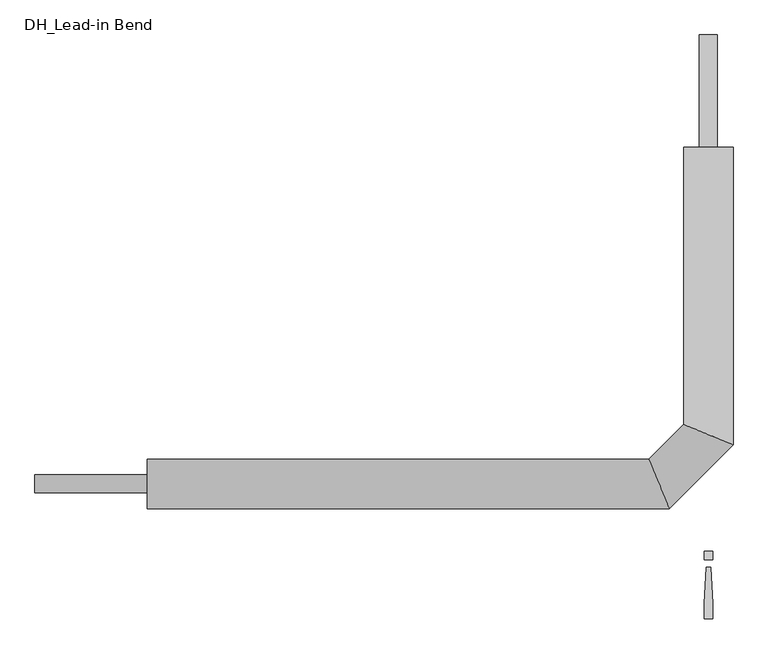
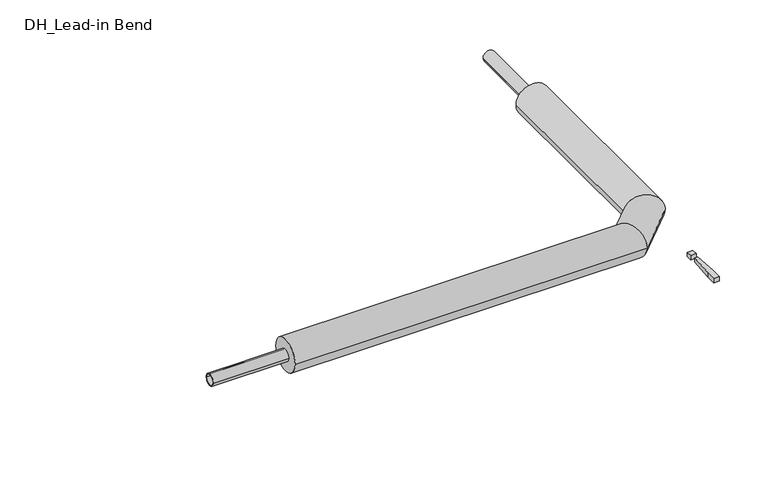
"""IFC4 building model written with IfcOpenShell, lengths in millimetres: pipe fitting geometry, DH_Lead-in Bend : INSULPEX UNO + 11 Heating."""

import ifcopenshell
import ifcopenshell.guid

model = None  # the IFC model being written
_history = None  # IfcOwnerHistory: only IFC2X3 demands one
_inside = {}  # id of a spatial element -> (the spatial element, [elements in it])
_under = {}  # id of a project, library or spatial element -> (it, [spatial elements below it])
_declared = {}  # id of a project -> (the project, [libraries it declares])
_typed = {}  # id of a type object -> (the type object, [elements of that type])
_made_of = {}  # id of a material, layer set ... -> (it, [elements and type objects made of it])


def new_model(schema):
    """Start an empty IFC model of exactly this schema.

    Asked for "IFC4X3", IfcOpenShell would pick the latest addendum, in which some entities
    have other attributes; the version numbers below select the first issue.
    IFC2X3 requires an IfcOwnerHistory on every rooted entity: one is made here for all.
    """
    global model, _history
    if schema == "IFC4X3":
        model = ifcopenshell.file(schema_version=(4, 3, 0, 0))
    else:
        model = ifcopenshell.file(schema=schema)
    _inside.clear()
    _under.clear()
    _declared.clear()
    _typed.clear()
    _made_of.clear()
    _history = None
    if model.schema == "IFC2X3":
        org = make("IfcOrganization", Name="unknown")
        user = make(
            "IfcPersonAndOrganization",
            ThePerson=make("IfcPerson", FamilyName="unknown"),
            TheOrganization=org,
        )
        app = make(
            "IfcApplication",
            ApplicationDeveloper=org,
            Version="unknown",
            ApplicationFullName="unknown",
            ApplicationIdentifier="unknown",
        )
        _history = make(
            "IfcOwnerHistory",
            OwningUser=user,
            OwningApplication=app,
            ChangeAction="ADDED",
            CreationDate=0,
        )
    return model


def make(cls, **values):
    """One entity of the class cls with the attributes given. An attribute that is None is left unset."""
    return model.create_entity(
        cls, **{name: value for name, value in values.items() if value is not None}
    )


def rooted(cls, **values):
    """An entity with a GlobalId (a new one), such as an element, a storey or a relation."""
    return make(cls, GlobalId=ifcopenshell.guid.new(), OwnerHistory=_history, **values)


def si_unit(unit_type, name, prefix=None):
    """IfcSIUnit, for example si_unit("LENGTHUNIT", "METRE", prefix="MILLI")."""
    return make("IfcSIUnit", UnitType=unit_type, Prefix=prefix, Name=name)


def assignment(units):
    """IfcUnitAssignment: the units of a project."""
    return None if units is None else make("IfcUnitAssignment", Units=units)


def point(xyz):
    """IfcCartesianPoint."""
    return None if xyz is None else make("IfcCartesianPoint", Coordinates=xyz)


def direction(xyz):
    """IfcDirection."""
    return None if xyz is None else make("IfcDirection", DirectionRatios=xyz)


def frame(location, z_axis=None, x_axis=None):
    """IfcAxis2Placement3D, a coordinate frame: its origin and axes. An axis left out is left unset."""
    return make(
        "IfcAxis2Placement3D",
        Location=point(location),
        Axis=direction(z_axis),
        RefDirection=direction(x_axis),
    )


def frame_2d(location, x_axis=None):
    """IfcAxis2Placement2D, a coordinate frame in the plane: its origin and x axis."""
    return make(
        "IfcAxis2Placement2D", Location=point(location), RefDirection=direction(x_axis)
    )


def origin():
    """The frame at (0, 0, 0) with its axes left unset."""
    return frame((0.0, 0.0, 0.0))


def origin_with_axes():
    """The frame at (0, 0, 0) with the z axis (0, 0, 1) and the x axis (1, 0, 0) written out."""
    return frame((0.0, 0.0, 0.0), z_axis=(0.0, 0.0, 1.0), x_axis=(1.0, 0.0, 0.0))


def origin_2d():
    """The frame at (0, 0) in the plane with its x axis left unset."""
    return frame_2d((0.0, 0.0))


def place(relative_to, where):
    """IfcLocalPlacement: puts the frame where relative to a parent placement (None: the world)."""
    return make(
        "IfcLocalPlacement", PlacementRelTo=relative_to, RelativePlacement=where
    )


def context(
    kind, dimensions, precision=None, world=None, true_north=None, identifier=None
):
    """IfcGeometricRepresentationContext, for example the 3D "Model" context."""
    return make(
        "IfcGeometricRepresentationContext",
        ContextIdentifier=identifier,
        ContextType=kind,
        CoordinateSpaceDimension=dimensions,
        Precision=precision,
        WorldCoordinateSystem=world,
        TrueNorth=true_north,
    )


def project(units=None, contexts=None):
    """IfcProject with its units and contexts."""
    return rooted(
        "IfcProject",
        Name="project",
        RepresentationContexts=contexts,
        UnitsInContext=assignment(units),
    )


def spatial(cls, under=None, at=None, **own):
    """A site, building, storey or space (cls), placed at a placement, below another one or the project."""
    s = rooted(cls, ObjectPlacement=at, **own)
    if under is not None:
        _under.setdefault(under.id(), (under, []))[1].append(s)
    return s


def polyline(points):
    """IfcPolyline through the points."""
    return make("IfcPolyline", Points=[point(p) for p in points])


def circle_curve(where, radius):
    """IfcCircle in the frame where."""
    return make("IfcCircle", Position=where, Radius=radius)


def ellipse_curve(where, semi_axis1, semi_axis2):
    """IfcEllipse in the frame where."""
    return make(
        "IfcEllipse", Position=where, SemiAxis1=semi_axis1, SemiAxis2=semi_axis2
    )


def trimmed(basis, trim1, trim2, sense, master):
    """IfcTrimmedCurve: the piece of a basis curve between two trims."""
    return make(
        "IfcTrimmedCurve",
        BasisCurve=basis,
        Trim1=trim1,
        Trim2=trim2,
        SenseAgreement=sense,
        MasterRepresentation=master,
    )


def segment(curve, same_sense, transition):
    """IfcCompositeCurveSegment."""
    return make(
        "IfcCompositeCurveSegment",
        Transition=transition,
        SameSense=same_sense,
        ParentCurve=curve,
    )


def composite_curve(segments, self_intersect=None):
    """IfcCompositeCurve: segments joined end to end."""
    return make("IfcCompositeCurve", Segments=segments, SelfIntersect=self_intersect)


def outline(outer, holes=None, kind="AREA"):
    """IfcArbitraryClosedProfileDef: a profile drawn as a closed curve; with holes, ...WithVoids."""
    if holes is None:
        return make("IfcArbitraryClosedProfileDef", ProfileType=kind, OuterCurve=outer)
    return make(
        "IfcArbitraryProfileDefWithVoids",
        ProfileType=kind,
        OuterCurve=outer,
        InnerCurves=holes,
    )


def extrude(swept, where, along, depth):
    """IfcExtrudedAreaSolid: the profile swept, set in the frame where, extruded along a direction by depth."""
    return make(
        "IfcExtrudedAreaSolid",
        SweptArea=swept,
        Position=where,
        ExtrudedDirection=direction(along),
        Depth=depth,
    )


def shape(context_of_items, identifier, shape_type, items):
    """IfcShapeRepresentation: the items that make up one representation, for example the "Body"."""
    return make(
        "IfcShapeRepresentation",
        ContextOfItems=context_of_items,
        RepresentationIdentifier=identifier,
        RepresentationType=shape_type,
        Items=items,
    )


def source(mapping_origin, context_of_items, identifier, shape_type, items):
    """IfcRepresentationMap: a shape defined once, which mapped items show again and again."""
    return make(
        "IfcRepresentationMap",
        MappingOrigin=mapping_origin,
        MappedRepresentation=shape(context_of_items, identifier, shape_type, items),
    )


def transform(
    local_origin,
    x_axis=None,
    y_axis=None,
    z_axis=None,
    scale=None,
    scale2=None,
    scale3=None,
    uniform=True,
):
    """IfcCartesianTransformationOperator3D, or its non-uniform kind. x_axis, y_axis, z_axis: its Axis1, 2, 3."""
    if uniform:
        return make(
            "IfcCartesianTransformationOperator3D",
            Axis1=direction(x_axis),
            Axis2=direction(y_axis),
            LocalOrigin=point(local_origin),
            Scale=scale,
            Axis3=direction(z_axis),
        )
    return make(
        "IfcCartesianTransformationOperator3DnonUniform",
        Axis1=direction(x_axis),
        Axis2=direction(y_axis),
        LocalOrigin=point(local_origin),
        Scale=scale,
        Axis3=direction(z_axis),
        Scale2=scale2,
        Scale3=scale3,
    )


def mapped(mapping_source, mapping_target):
    """IfcMappedItem: shows the shape of a source again, moved by a transform."""
    return make(
        "IfcMappedItem", MappingSource=mapping_source, MappingTarget=mapping_target
    )


def made_of(thing, what):
    """Note that an element or type object is made of a material, layer set ...; save() writes the relation."""
    if what is not None:
        _made_of.setdefault(what.id(), (what, []))[1].append(thing)
    return thing


def element(
    cls,
    number,
    at=None,
    inside=None,
    cuts=None,
    type_object=None,
    material=None,
    context=None,
    identifier="Body",
    shape_type=None,
    held_by="IfcProductDefinitionShape",
    body=None,
    shapes=None,
    **own,
):
    """One element of the class cls, such as IfcWall. Its Tag is "e" and its number.

    at: its placement. inside: the storey or other place that contains it. cuts: it is an
    opening in that element (IfcRelVoidsElement). A single representation is given by context,
    identifier, shape_type and body (its items); several are given by shapes. held_by: the class
    of the entity that holds the representations. save() writes the other relations.
    """
    e = rooted(cls, Tag="e%d" % number, ObjectPlacement=at, **own)
    if body is not None:
        shapes = [shape(context, identifier, shape_type, body)]
    if shapes is not None:
        e.Representation = make(held_by, Representations=shapes)
    if inside is not None:
        _inside.setdefault(inside.id(), (inside, []))[1].append(e)
    if cuts is not None:
        rooted(
            "IfcRelVoidsElement", RelatingBuildingElement=cuts, RelatedOpeningElement=e
        )
    if type_object is not None:
        _typed.setdefault(type_object.id(), (type_object, []))[1].append(e)
    return made_of(e, material)


def aggregate(whole, parts):
    """IfcRelAggregates: a whole, such as a stair, and the parts it consists of."""
    return rooted("IfcRelAggregates", RelatingObject=whole, RelatedObjects=parts)


def save(model, path):
    """Write the relations noted so far, then the file.

    IfcRelAggregates (storeys below a building ...), IfcRelContainedInSpatialStructure (elements
    in a storey), IfcRelDefinesByType, IfcRelAssociatesMaterial and IfcRelDeclares: one each for
    every whole, place, type object, material and project.
    """
    for whole, parts in _under.values():
        aggregate(whole, parts)
    for where, things in _inside.values():
        rooted(
            "IfcRelContainedInSpatialStructure",
            RelatedElements=things,
            RelatingStructure=where,
        )
    for kind, things in _typed.values():
        rooted("IfcRelDefinesByType", RelatedObjects=things, RelatingType=kind)
    for what, things in _made_of.values():
        rooted("IfcRelAssociatesMaterial", RelatedObjects=things, RelatingMaterial=what)
    for by, libraries in _declared.values():
        rooted("IfcRelDeclares", RelatingContext=by, RelatedDefinitions=libraries)
    model.write(path)


def plane_surface(at):
    """IfcPlane: the flat surface through the origin of the frame at, square to its z axis."""
    return make("IfcPlane", Position=at)


def cylinder_surface(at, radius):
    """IfcCylindricalSurface: all points at the distance radius from the z axis of the frame at."""
    return make("IfcCylindricalSurface", Position=at, Radius=radius)


def advanced_brep(points, edges, surfaces, faces):
    """IfcAdvancedBrep: a solid bounded by faces that lie on surfaces and meet in shared edges.

    An edge is (start, end): straight between two places in points (the first is 0);
    or (start, end, curve); or (start, end, curve, False) where it runs against its curve.
    A face is (place in surfaces, loops), or (place, loops, False) where it looks against
    its surface's normal. A loop lists edges by number (the first is 1), with a minus sign
    where the edge is run from its end to its start. The first loop is the outer one.
    """
    corners = [point(p) for p in points]
    vertices = [make("IfcVertexPoint", VertexGeometry=c) for c in corners]
    made = []
    for start, end, *more in edges:
        made.append(
            make(
                "IfcEdgeCurve",
                EdgeStart=vertices[start],
                EdgeEnd=vertices[end],
                EdgeGeometry=more[0] if more else make("IfcPolyline", Points=[corners[start], corners[end]]),
                SameSense=more[1] if len(more) > 1 else True,
            )
        )
    hull = []
    for where, loops, *sense in faces:
        bounds = []
        for j, loop in enumerate(loops):
            ring = [make("IfcOrientedEdge", EdgeElement=made[abs(k) - 1], Orientation=k > 0) for k in loop]
            bounds.append(
                make(
                    "IfcFaceOuterBound" if j == 0 else "IfcFaceBound",
                    Bound=make("IfcEdgeLoop", EdgeList=ring),
                    Orientation=True,
                )
            )
        hull.append(make("IfcAdvancedFace", Bounds=bounds, FaceSurface=surfaces[where], SameSense=sense[0] if sense else True))
    return make("IfcAdvancedBrep", Outer=make("IfcClosedShell", CfsFaces=hull))


def dh_lead_in_bend_6c71f6cb(model_context):
    return source(origin(), model_context, "Body", "SolidModel", [
        advanced_brep(
        [(-1250.0, -55.0, 0.0), (-1250.0, 55.0, 0.0), (-87.2182541, -55.0, 0.0), (-132.7817459, 55.0, 0.0), (55.0, 750.0, 0.0), (-55.0, 750.0, 0.0), (-55.0, 132.7817459, 0.0), (55.0, 87.2182541, 0.0)],
        [
            (0, 1, circle_curve(frame((-1250.0, 0.0, 0.0), z_axis=(-1.0, 0.0, 0.0), x_axis=(0.0, 1.0, 0.0)), 55.0)),
            (1, 0, circle_curve(frame((-1250.0, 0.0, 0.0), z_axis=(-1.0, 0.0, 0.0), x_axis=(0.0, 1.0, 0.0)), 55.0)),
            (0, 2),
            (2, 3, ellipse_curve(frame((-110.0, 0.0, 0.0), z_axis=(-0.9238795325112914, -0.3826834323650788, 0.0), x_axis=(-0.38268343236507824, 0.9238795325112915, 0.0)), 59.531571, 55.0)),
            (3, 1),
            (3, 2, ellipse_curve(frame((-110.0, 0.0, 0.0), z_axis=(-0.9238795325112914, -0.3826834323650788, 0.0), x_axis=(-0.38268343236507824, 0.9238795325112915, 0.0)), 59.531571, 55.0)),
            (4, 5, circle_curve(frame((0.0, 750.0, 0.0), z_axis=(0.0, 1.0, 0.0), x_axis=(-1.0, 0.0, 0.0)), 55.0)),
            (5, 4, circle_curve(frame((0.0, 750.0, 0.0), z_axis=(0.0, 1.0, 0.0), x_axis=(-1.0, 0.0, 0.0)), 55.0)),
            (6, 7, ellipse_curve(frame((0.0, 110.0, 0.0), z_axis=(0.38268343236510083, 0.9238795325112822, 0.0), x_axis=(0.9238795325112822, -0.3826834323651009, 0.0)), 59.531571, 55.0)),
            (7, 4),
            (5, 6),
            (7, 6, ellipse_curve(frame((0.0, 110.0, 0.0), z_axis=(0.38268343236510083, 0.9238795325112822, 0.0), x_axis=(0.9238795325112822, -0.3826834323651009, 0.0)), 59.531571, 55.0)),
            (2, 7),
            (6, 3),
        ],
        [
            plane_surface(frame((-1250.0, 0.0, 0.0), z_axis=(-1.0, 0.0, 0.0), x_axis=(0.0, 0.0, 1.0))),
            cylinder_surface(frame((-1250.0, 0.0, 0.0), z_axis=(-1.0, 0.0, 0.0), x_axis=(0.0, 1.0, 0.0)), 55.0),
            plane_surface(frame((0.0, 750.0, 0.0), z_axis=(0.0, 1.0, 0.0), x_axis=(0.0, 0.0, 1.0))),
            cylinder_surface(frame((0.0, 110.0, 0.0), z_axis=(0.0, -1.0, 0.0), x_axis=(-1.0, 0.0, 0.0)), 55.0),
            cylinder_surface(frame((-110.0, 0.0, 0.0), z_axis=(-0.7071067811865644, -0.7071067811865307, 0.0), x_axis=(-0.7071067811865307, 0.7071067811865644, 0.0)), 55.0),
        ],
        [
            (0, [[1, 2]]),
            (1, [[-1, 3, 4, 5]]),
            (1, [[-2, -5, 6, -3]]),
            (2, [[7, 8]]),
            (3, [[9, 10, -8, 11]]),
            (3, [[12, -11, -7, -10]]),
            (4, [[-4, 13, -9, 14]]),
            (4, [[-6, -14, -12, -13]]),
        ],
    ),
        extrude(outline(polyline([(4.7088895, -185.3166715), (9.4177791, -266.6553807), (9.4177791, -300.6844652), (-9.4177791, -300.6844652), (-9.4177791, -266.6553807), (-4.7088895, -185.3166715), (4.7088895, -185.3166715)])), origin_with_axes(), (0.0, 0.0, 1.0), 15.0),
        extrude(outline(polyline([(9.4177791, -150.0), (9.4177791, -168.8355582), (-9.4177791, -168.8355582), (-9.4177791, -150.0), (9.4177791, -150.0)])), origin_with_axes(), (0.0, 0.0, 1.0), 15.0),
        extrude(outline(composite_curve([segment(trimmed(circle_curve(origin_2d(), 20.0), [point((-20.0, 0.0))], [point((20.0, 0.0))], False, "CARTESIAN"), True, "CONTINUOUS"), segment(trimmed(circle_curve(origin_2d(), 20.0), [point((20.0, 0.0))], [point((-20.0, 0.0))], False, "CARTESIAN"), True, "CONTINUOUS")], self_intersect=False), holes=[composite_curve([segment(trimmed(circle_curve(origin_2d(), 16.3), [point((-16.3, 0.0))], [point((16.3, 0.0))], True, "CARTESIAN"), True, "CONTINUOUS"), segment(trimmed(circle_curve(origin_2d(), 16.3), [point((16.3, 0.0))], [point((-16.3, 0.0))], True, "CARTESIAN"), True, "CONTINUOUS")], self_intersect=False)]), frame((-1500.0, 0.0, 0.0), z_axis=(1.0, 0.0, 0.0), x_axis=(0.0, 1.0, 0.0)), (0.0, 0.0, 1.0), 250.0),
        extrude(outline(composite_curve([segment(trimmed(circle_curve(origin_2d(), 20.0), [point((0.0, 20.0))], [point((0.0, -20.0))], False, "CARTESIAN"), True, "CONTINUOUS"), segment(trimmed(circle_curve(origin_2d(), 20.0), [point((0.0, -20.0))], [point((0.0, 20.0))], False, "CARTESIAN"), True, "CONTINUOUS")], self_intersect=False), holes=[composite_curve([segment(trimmed(circle_curve(origin_2d(), 16.3), [point((0.0, 16.3))], [point((0.0, -16.3))], True, "CARTESIAN"), True, "CONTINUOUS"), segment(trimmed(circle_curve(origin_2d(), 16.3), [point((0.0, -16.3))], [point((0.0, 16.3))], True, "CARTESIAN"), True, "CONTINUOUS")], self_intersect=False)]), frame((0.0, 750.0, 0.0), z_axis=(0.0, 1.0, 0.0), x_axis=(0.0, 0.0, 1.0)), (0.0, 0.0, 1.0), 250.0),
    ])


if __name__ == "__main__":
    model = new_model("IFC4")
    model_context = context("Model", 3, world=origin())
    ifc_project = project(units=[si_unit("LENGTHUNIT", "METRE", prefix="MILLI")], contexts=[model_context])
    site = spatial("IfcSite", under=ifc_project)
    building = spatial("IfcBuilding", under=site)
    placement = place(None, origin())
    dh_lead_in_bend_shape = dh_lead_in_bend_6c71f6cb(model_context)
    element("IfcPipeFitting", 1, ObjectType="DH_Lead-in Bend : INSULPEX UNO + 11 Heating", at=placement, inside=building, context=model_context, shape_type="MappedRepresentation", body=[
        mapped(dh_lead_in_bend_shape, transform((0.0, 0.0, 0.0), x_axis=(1.0, 0.0, 0.0), y_axis=(0.0, 1.0, 0.0), z_axis=(0.0, 0.0, 1.0))),
    ])
    save(model, "model.ifc")
